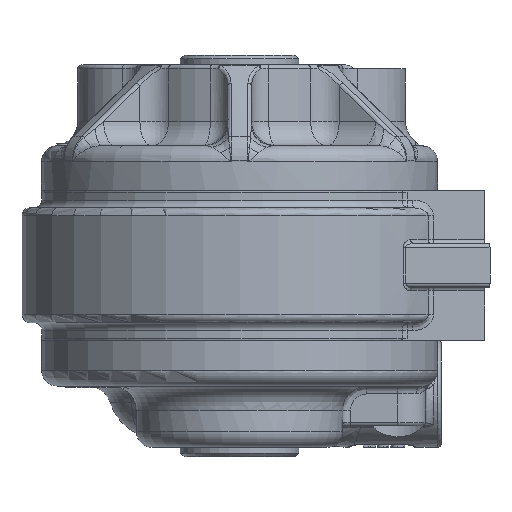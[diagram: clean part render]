
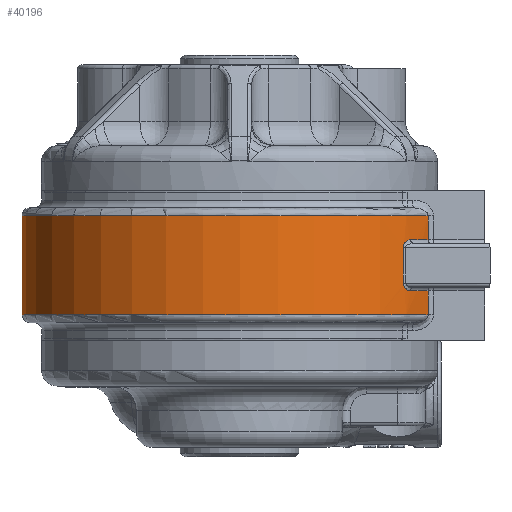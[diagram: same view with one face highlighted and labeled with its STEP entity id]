
A CAD part, front view. The second image highlights one B-rep face of the part: STEP entity #40196.
In plain terms, the highlighted cylindrical face has radius 87.325 mm (diameter 174.65 mm), a partial arc.
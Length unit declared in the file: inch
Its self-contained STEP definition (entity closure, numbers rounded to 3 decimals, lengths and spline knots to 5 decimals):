
#39839=CARTESIAN_POINT('',(2.60745,-2.24077,0.344));
#39840=VERTEX_POINT('',#39839);
#39841=CARTESIAN_POINT('',(2.60488,-2.24375,0.33938));
#39842=VERTEX_POINT('',#39841);
#39843=CARTESIAN_POINT('',(2.60746,-2.24076,0.34398));
#39844=CARTESIAN_POINT('',(2.60658,-2.24178,0.34248));
#39845=CARTESIAN_POINT('',(2.60572,-2.24278,0.34094));
#39846=CARTESIAN_POINT('',(2.60489,-2.24374,0.33936));
#39847=B_SPLINE_CURVE_WITH_KNOTS('',3,(#39843,#39844,#39845,#39846),.UNSPECIFIED.,.F.,.U.,(4,4),(-0.16847,-0.15303),.UNSPECIFIED.);
#39848=EDGE_CURVE('',#39840,#39842,#39847,.T.);
#39850=CARTESIAN_POINT('',(2.59105,-2.25971,0.284));
#39851=VERTEX_POINT('',#39850);
#39852=CARTESIAN_POINT('',(2.6049,-2.24373,0.33938));
#39853=CARTESIAN_POINT('',(2.60136,-2.24784,0.33269));
#39854=CARTESIAN_POINT('',(2.59418,-2.25613,0.31566));
#39855=CARTESIAN_POINT('',(2.59105,-2.25971,0.29547));
#39856=CARTESIAN_POINT('',(2.59105,-2.25971,0.284));
#39857=B_SPLINE_CURVE_WITH_KNOTS('',3,(#39852,#39853,#39854,#39855,#39856),.UNSPECIFIED.,.F.,.U.,(4,1,4),(-0.15309,-0.08742,0.0),.UNSPECIFIED.);
#39858=EDGE_CURVE('',#39842,#39851,#39857,.T.);
#39879=CARTESIAN_POINT('',(2.70694,-2.11951,0.404));
#39880=VERTEX_POINT('',#39879);
#39888=CARTESIAN_POINT('',(2.70694,-2.11951,0.404));
#39889=CARTESIAN_POINT('',(2.68608,-2.14615,0.404));
#39890=CARTESIAN_POINT('',(2.65044,-2.19025,0.39345));
#39891=CARTESIAN_POINT('',(2.61823,-2.22822,0.36212));
#39892=CARTESIAN_POINT('',(2.60782,-2.24034,0.3446));
#39893=CARTESIAN_POINT('',(2.60746,-2.24076,0.34398));
#39894=B_SPLINE_CURVE_WITH_KNOTS('',3,(#39888,#39889,#39890,#39891,#39892,#39893),.UNSPECIFIED.,.F.,.U.,(4,1,1,4),(-0.61191,-0.34966,-0.17483,-0.16847),.UNSPECIFIED.);
#39895=EDGE_CURVE('',#39880,#39840,#39894,.T.);
#39936=CARTESIAN_POINT('',(2.60488,-2.24375,-0.33938));
#39937=VERTEX_POINT('',#39936);
#39938=CARTESIAN_POINT('',(2.60745,-2.24077,-0.344));
#39939=VERTEX_POINT('',#39938);
#39940=CARTESIAN_POINT('',(2.60491,-2.24372,-0.33934));
#39941=CARTESIAN_POINT('',(2.60574,-2.24275,-0.34091));
#39942=CARTESIAN_POINT('',(2.6066,-2.24176,-0.34245));
#39943=CARTESIAN_POINT('',(2.60748,-2.24074,-0.34396));
#39944=B_SPLINE_CURVE_WITH_KNOTS('',3,(#39940,#39941,#39942,#39943),.UNSPECIFIED.,.F.,.U.,(4,4),(-0.4575,-0.44213),.UNSPECIFIED.);
#39945=EDGE_CURVE('',#39937,#39939,#39944,.T.);
#39947=CARTESIAN_POINT('',(2.70694,-2.11951,-0.404));
#39948=VERTEX_POINT('',#39947);
#39949=CARTESIAN_POINT('',(2.60748,-2.24074,-0.34396));
#39950=CARTESIAN_POINT('',(2.6078,-2.24036,-0.34452));
#39951=CARTESIAN_POINT('',(2.61818,-2.22827,-0.36202));
#39952=CARTESIAN_POINT('',(2.65025,-2.19047,-0.39328));
#39953=CARTESIAN_POINT('',(2.68612,-2.14611,-0.404));
#39954=CARTESIAN_POINT('',(2.70694,-2.11951,-0.404));
#39955=B_SPLINE_CURVE_WITH_KNOTS('',3,(#39949,#39950,#39951,#39952,#39953,#39954),.UNSPECIFIED.,.F.,.U.,(4,1,1,4),(-0.44213,-0.4364,-0.26184,0.0),.UNSPECIFIED.);
#39956=EDGE_CURVE('',#39939,#39948,#39955,.T.);
#39966=CARTESIAN_POINT('',(2.59105,-2.25971,-0.284));
#39967=VERTEX_POINT('',#39966);
#39975=CARTESIAN_POINT('',(2.59105,-2.25971,-0.284));
#39976=CARTESIAN_POINT('',(2.59105,-2.25971,-0.29545));
#39977=CARTESIAN_POINT('',(2.59412,-2.2562,-0.31544));
#39978=CARTESIAN_POINT('',(2.60134,-2.24787,-0.33257));
#39979=CARTESIAN_POINT('',(2.60491,-2.24372,-0.33934));
#39980=B_SPLINE_CURVE_WITH_KNOTS('',3,(#39975,#39976,#39977,#39978,#39979),.UNSPECIFIED.,.F.,.U.,(4,1,4),(-0.61095,-0.52367,-0.4575),.UNSPECIFIED.);
#39981=EDGE_CURVE('',#39967,#39937,#39980,.T.);
#39992=CARTESIAN_POINT('',(2.59105,-2.25971,0.284));
#39993=DIRECTION('',(0.0,0.0,-1.0));
#39994=VECTOR('',#39993,0.568);
#39995=LINE('',#39992,#39994);
#39996=EDGE_CURVE('',#39851,#39967,#39995,.T.);
#40008=CARTESIAN_POINT('',(2.97944,-1.71545,-0.404));
#40009=VERTEX_POINT('',#40008);
#40035=CARTESIAN_POINT('',(0.0,0.0,-0.404));
#40036=DIRECTION('',(0.0,0.0,1.0));
#40037=DIRECTION('',(0.816,-0.578,0.0));
#40038=AXIS2_PLACEMENT_3D('',#40035,#40036,#40037);
#40039=CIRCLE('',#40038,3.438);
#40040=EDGE_CURVE('',#39948,#40009,#40039,.T.);
#40071=CARTESIAN_POINT('',(2.97944,-1.71545,0.404));
#40072=VERTEX_POINT('',#40071);
#40080=CARTESIAN_POINT('',(0.0,0.0,0.404));
#40081=DIRECTION('',(0.0,0.0,-1.0));
#40082=DIRECTION('',(0.816,-0.578,0.0));
#40083=AXIS2_PLACEMENT_3D('',#40080,#40081,#40082);
#40084=CIRCLE('',#40083,3.438);
#40085=EDGE_CURVE('',#40072,#39880,#40084,.T.);
#40128=CARTESIAN_POINT('',(2.97944,-1.71545,-0.7815));
#40129=VERTEX_POINT('',#40128);
#40130=CARTESIAN_POINT('',(2.97944,-1.71545,-0.404));
#40131=DIRECTION('',(0.0,0.0,-1.0));
#40132=VECTOR('',#40131,0.3775);
#40133=LINE('',#40130,#40132);
#40134=EDGE_CURVE('',#40009,#40129,#40133,.T.);
#40147=CARTESIAN_POINT('',(0.0,0.0,0.0));
#40148=DIRECTION('',(0.0,0.0,1.0));
#40149=DIRECTION('',(0.986,-0.167,0.0));
#40150=AXIS2_PLACEMENT_3D('',#40147,#40148,#40149);
#40151=CYLINDRICAL_SURFACE('',#40150,3.438);
#40152=ORIENTED_EDGE('',*,*,#40040,.F.);
#40153=ORIENTED_EDGE('',*,*,#39956,.F.);
#40154=ORIENTED_EDGE('',*,*,#39945,.F.);
#40155=ORIENTED_EDGE('',*,*,#39981,.F.);
#40156=ORIENTED_EDGE('',*,*,#39996,.F.);
#40157=ORIENTED_EDGE('',*,*,#39858,.F.);
#40158=ORIENTED_EDGE('',*,*,#39848,.F.);
#40159=ORIENTED_EDGE('',*,*,#39895,.F.);
#40160=ORIENTED_EDGE('',*,*,#40085,.F.);
#40161=CARTESIAN_POINT('',(2.97944,-1.71545,0.7815));
#40162=VERTEX_POINT('',#40161);
#40163=CARTESIAN_POINT('',(2.97944,-1.71545,0.7815));
#40164=DIRECTION('',(0.0,0.0,-1.0));
#40165=VECTOR('',#40164,0.3775);
#40166=LINE('',#40163,#40165);
#40167=EDGE_CURVE('',#40162,#40072,#40166,.T.);
#40168=ORIENTED_EDGE('',*,*,#40167,.F.);
#40169=CARTESIAN_POINT('',(-3.38991,0.573,0.7815));
#40170=VERTEX_POINT('',#40169);
#40171=CARTESIAN_POINT('',(0.0,0.0,0.7815));
#40172=DIRECTION('',(0.0,0.0,1.0));
#40173=DIRECTION('',(-0.33,-0.944,0.0));
#40174=AXIS2_PLACEMENT_3D('',#40171,#40172,#40173);
#40175=CIRCLE('',#40174,3.438);
#40176=EDGE_CURVE('',#40170,#40162,#40175,.T.);
#40177=ORIENTED_EDGE('',*,*,#40176,.F.);
#40178=CARTESIAN_POINT('',(-3.38991,0.573,-0.7815));
#40179=VERTEX_POINT('',#40178);
#40180=CARTESIAN_POINT('',(-3.38991,0.573,-0.7815));
#40181=DIRECTION('',(0.0,0.0,1.0));
#40182=VECTOR('',#40181,1.563);
#40183=LINE('',#40180,#40182);
#40184=EDGE_CURVE('',#40179,#40170,#40183,.T.);
#40185=ORIENTED_EDGE('',*,*,#40184,.F.);
#40186=CARTESIAN_POINT('',(0.0,0.0,-0.7815));
#40187=DIRECTION('',(0.0,0.0,-1.0));
#40188=DIRECTION('',(-0.33,-0.944,0.0));
#40189=AXIS2_PLACEMENT_3D('',#40186,#40187,#40188);
#40190=CIRCLE('',#40189,3.438);
#40191=EDGE_CURVE('',#40129,#40179,#40190,.T.);
#40192=ORIENTED_EDGE('',*,*,#40191,.F.);
#40193=ORIENTED_EDGE('',*,*,#40134,.F.);
#40194=EDGE_LOOP('',(#40152,#40153,#40154,#40155,#40156,#40157,#40158,#40159,#40160,#40168,#40177,#40185,#40192,#40193));
#40195=FACE_OUTER_BOUND('',#40194,.T.);
#40196=ADVANCED_FACE('',(#40195),#40151,.T.);
